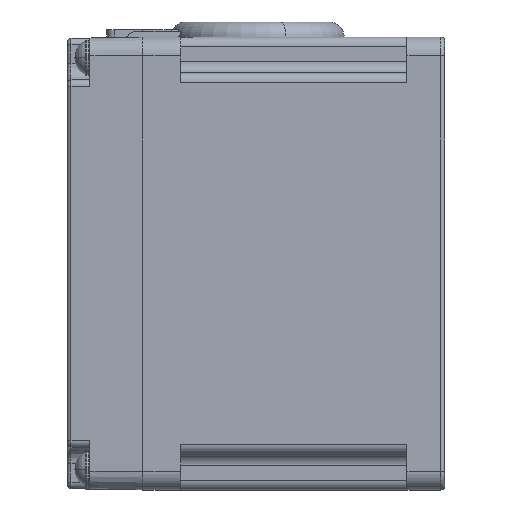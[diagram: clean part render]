
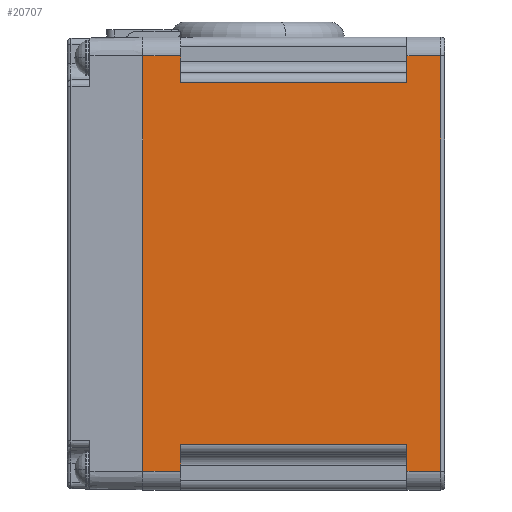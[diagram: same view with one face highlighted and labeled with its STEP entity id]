
A CAD part, left-side view. The second image highlights one B-rep face of the part: STEP entity #20707.
In plain terms, the highlighted planar face has unit normal (-1, 0, 0).
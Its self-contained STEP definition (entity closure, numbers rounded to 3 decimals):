
#5784=DIRECTION('',(0.,0.,1.));
#5785=VECTOR('',#5784,110.);
#5786=CARTESIAN_POINT('',(-80.,80.,-55.));
#5787=LINE('',#5786,#5785);
#6078=DIRECTION('',(0.,0.,1.));
#6079=VECTOR('',#6078,7.);
#6080=CARTESIAN_POINT('',(-80.,70.,48.));
#6081=LINE('',#6080,#6079);
#6124=DIRECTION('',(0.,0.,1.));
#6125=VECTOR('',#6124,7.);
#6126=CARTESIAN_POINT('',(-80.,70.,-55.));
#6127=LINE('',#6126,#6125);
#6267=DIRECTION('',(0.,0.,-1.));
#6268=VECTOR('',#6267,7.);
#6269=CARTESIAN_POINT('',(-80.,10.,55.));
#6270=LINE('',#6269,#6268);
#6297=DIRECTION('',(0.,0.,-1.));
#6298=VECTOR('',#6297,7.);
#6299=CARTESIAN_POINT('',(-80.,10.,-48.));
#6300=LINE('',#6299,#6298);
#6366=DIRECTION('',(0.,0.,1.));
#6367=VECTOR('',#6366,110.);
#6368=CARTESIAN_POINT('',(-80.,1.,-55.));
#6369=LINE('',#6368,#6367);
#6370=DIRECTION('',(0.,-1.,0.));
#6371=VECTOR('',#6370,60.);
#6372=CARTESIAN_POINT('',(-80.,70.,-48.));
#6373=LINE('',#6372,#6371);
#6374=DIRECTION('',(0.,-1.,0.));
#6375=VECTOR('',#6374,10.);
#6376=CARTESIAN_POINT('',(-80.,80.,-55.));
#6377=LINE('',#6376,#6375);
#6378=DIRECTION('',(0.,-1.,0.));
#6379=VECTOR('',#6378,10.);
#6380=CARTESIAN_POINT('',(-80.,80.,55.));
#6381=LINE('',#6380,#6379);
#6382=DIRECTION('',(0.,1.,0.));
#6383=VECTOR('',#6382,60.);
#6384=CARTESIAN_POINT('',(-80.,10.,48.));
#6385=LINE('',#6384,#6383);
#6386=DIRECTION('',(0.,1.,0.));
#6387=VECTOR('',#6386,9.);
#6388=CARTESIAN_POINT('',(-80.,1.,55.));
#6389=LINE('',#6388,#6387);
#6395=DIRECTION('',(0.,1.,0.));
#6396=VECTOR('',#6395,9.);
#6397=CARTESIAN_POINT('',(-80.,1.,-55.));
#6398=LINE('',#6397,#6396);
#10456=CARTESIAN_POINT('',(-80.,80.,55.));
#10458=VERTEX_POINT('',#10456);
#10469=CARTESIAN_POINT('',(-80.,80.,-55.));
#10471=VERTEX_POINT('',#10469);
#10489=CARTESIAN_POINT('',(-80.,70.,55.));
#10491=VERTEX_POINT('',#10489);
#10500=CARTESIAN_POINT('',(-80.,70.,-55.));
#10502=VERTEX_POINT('',#10500);
#10705=CARTESIAN_POINT('',(-80.,10.,55.));
#10707=VERTEX_POINT('',#10705);
#10764=CARTESIAN_POINT('',(-80.,10.,-55.));
#10766=VERTEX_POINT('',#10764);
#10788=CARTESIAN_POINT('',(-80.,10.,48.));
#10789=CARTESIAN_POINT('',(-80.,70.,48.));
#10790=VERTEX_POINT('',#10788);
#10791=VERTEX_POINT('',#10789);
#10836=CARTESIAN_POINT('',(-80.,70.,-48.));
#10837=CARTESIAN_POINT('',(-80.,10.,-48.));
#10838=VERTEX_POINT('',#10836);
#10839=VERTEX_POINT('',#10837);
#12052=CARTESIAN_POINT('',(-80.,1.,-55.));
#12053=VERTEX_POINT('',#12052);
#12056=CARTESIAN_POINT('',(-80.,1.,55.));
#12057=VERTEX_POINT('',#12056);
#20684=CARTESIAN_POINT('',(-80.,0.,-60.));
#20685=DIRECTION('',(-1.,0.,0.));
#20686=DIRECTION('',(0.,0.,1.));
#20687=AXIS2_PLACEMENT_3D('',#20684,#20685,#20686);
#20688=PLANE('',#20687);
#20689=ORIENTED_EDGE('',*,*,#20675,.F.);
#20691=ORIENTED_EDGE('',*,*,#20690,.T.);
#20692=ORIENTED_EDGE('',*,*,#20505,.F.);
#20694=ORIENTED_EDGE('',*,*,#20693,.F.);
#20695=ORIENTED_EDGE('',*,*,#20337,.F.);
#20697=ORIENTED_EDGE('',*,*,#20696,.F.);
#20698=ORIENTED_EDGE('',*,*,#20092,.T.);
#20699=ORIENTED_EDGE('',*,*,#20236,.T.);
#20700=ORIENTED_EDGE('',*,*,#20261,.F.);
#20702=ORIENTED_EDGE('',*,*,#20701,.F.);
#20703=ORIENTED_EDGE('',*,*,#20421,.F.);
#20704=ORIENTED_EDGE('',*,*,#20637,.F.);
#20705=EDGE_LOOP('',(#20689,#20691,#20692,#20694,#20695,#20697,#20698,#20699,
#20700,#20702,#20703,#20704));
#20706=FACE_OUTER_BOUND('',#20705,.F.);
#20707=ADVANCED_FACE('',(#20706),#20688,.T.);
#20092=EDGE_CURVE('',#10471,#10458,#5787,.T.);
#20236=EDGE_CURVE('',#10458,#10491,#6381,.T.);
#20261=EDGE_CURVE('',#10791,#10491,#6081,.T.);
#20337=EDGE_CURVE('',#10502,#10838,#6127,.T.);
#20421=EDGE_CURVE('',#10707,#10790,#6270,.T.);
#20505=EDGE_CURVE('',#10839,#10766,#6300,.T.);
#20637=EDGE_CURVE('',#12057,#10707,#6389,.T.);
#20675=EDGE_CURVE('',#12053,#12057,#6369,.T.);
#20690=EDGE_CURVE('',#12053,#10766,#6398,.T.);
#20693=EDGE_CURVE('',#10838,#10839,#6373,.T.);
#20696=EDGE_CURVE('',#10471,#10502,#6377,.T.);
#20701=EDGE_CURVE('',#10790,#10791,#6385,.T.);
